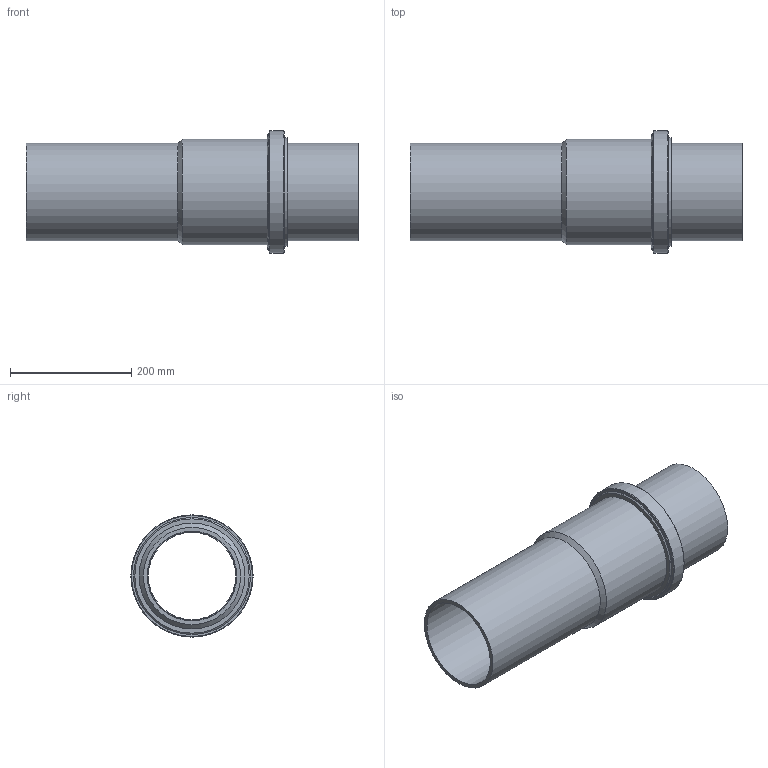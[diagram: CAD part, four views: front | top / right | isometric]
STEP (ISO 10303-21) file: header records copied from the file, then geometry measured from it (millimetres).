
FILE_DESCRIPTION(/* description */ (''),/* implementation_level */ '2;1');
FILE_NAME(/* name */ 'Z:\Geberit\Export\NewStep\369701.stp',/* time_stamp */ '2014-04-02T08:03:11+02:00',/* author */ ('nelson'),/* organization */ (''),/* preprocessor_version */ 'ST-DEVELOPER v15.2',/* originating_system */ 'Autodesk Inventor 2014',/* authorisation */ '');
FILE_SCHEMA (('AUTOMOTIVE_DESIGN { 1 0 10303 214 3 1 1 }'));
Length unit declared in the file: millimetre
Products named in the file (1): 369701
Bounding box: 546.69 x 201.5 x 201.5 mm (x, y, z)
Volume: 2239238.1 mm3; surface area: 908733.7 mm2
Topology: 2 solids, 3 shells, 41 faces, 75 edges, 45 vertices
Faces by surface type: cylinder 18, plane 11, cone 8, torus 4
Full cylindrical faces by diameter (mm): 143.8 x2, 145.8 x2, 147.6 x2, 150 x2, 160 x2, 161.9 x2, 166.9 x1, 174.3 x1, 178.9 x1, 179.5 x1, 192.5 x1, 201.5 x1
Entity records: 854 total; most frequent: DIRECTION 166, CARTESIAN_POINT 124, AXIS2_PLACEMENT_3D 83, EDGE_LOOP 82, ORIENTED_EDGE 82, FACE_BOUND 46, CIRCLE 41, VERTEX_POINT 41
